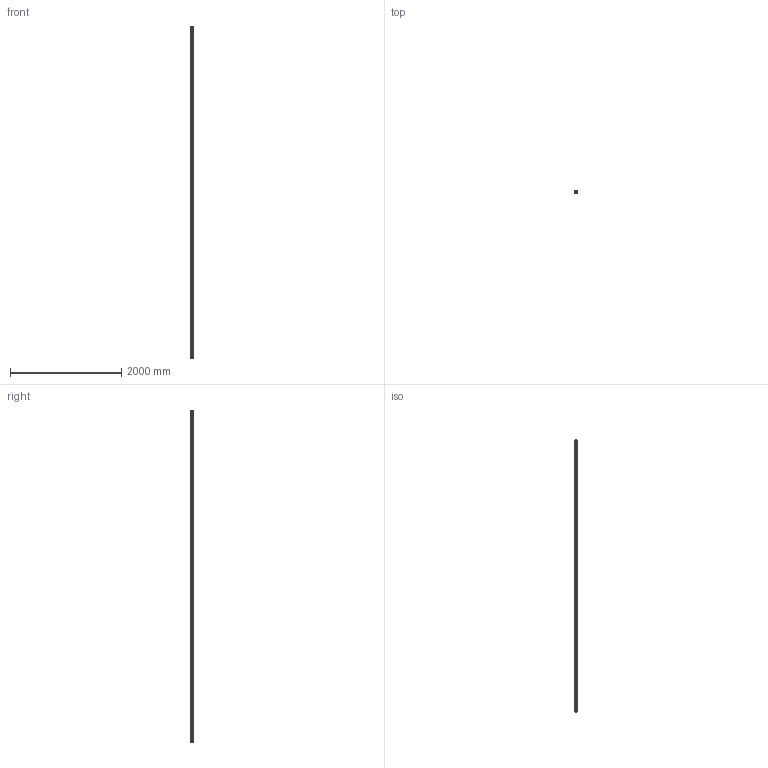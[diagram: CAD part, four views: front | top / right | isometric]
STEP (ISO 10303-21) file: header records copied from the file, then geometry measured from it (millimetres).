
FILE_DESCRIPTION((''),'2;1');
FILE_NAME('ROLLENSCHIENE_C','2021-12-23T05:35:30',('ac91sw'),(''),'CREO PARAMETRIC BY PTC INC, 2020044','CREO PARAMETRIC BY PTC INC, 2020044','');
FILE_SCHEMA(('AUTOMOTIVE_DESIGN { 1 0 10303 214 1 1 1 1 }'));
Length unit declared in the file: millimetre
Products named in the file (3): ROLLENSCHIENE_C_SKEL; ROLLENSCHIENE_C_RAIL1; ROLLENSCHIENE_C
Assembly tree (2 placements, depth 2):
  ROLLENSCHIENE_C
    ROLLENSCHIENE_C_SKEL
    ROLLENSCHIENE_C_RAIL1
Bounding box: 45 x 38.8 x 5981 mm (x, y, z)
Volume: 6894646.5 mm3; surface area: 1310029.4 mm2
Topology: 1 solids, 1 shells, 1086 faces, 2433 edges, 2046 vertices
Faces by surface type: cylinder 684, plane 402
Entity records: 32075 total; most frequent: DIRECTION 6031, CARTESIAN_POINT 5112, ORIENTED_EDGE 4380, AXIS2_PLACEMENT_3D 2483, EDGE_CURVE 2190, VERTEX_POINT 1448, EDGE_LOOP 1428, CIRCLE 1368
